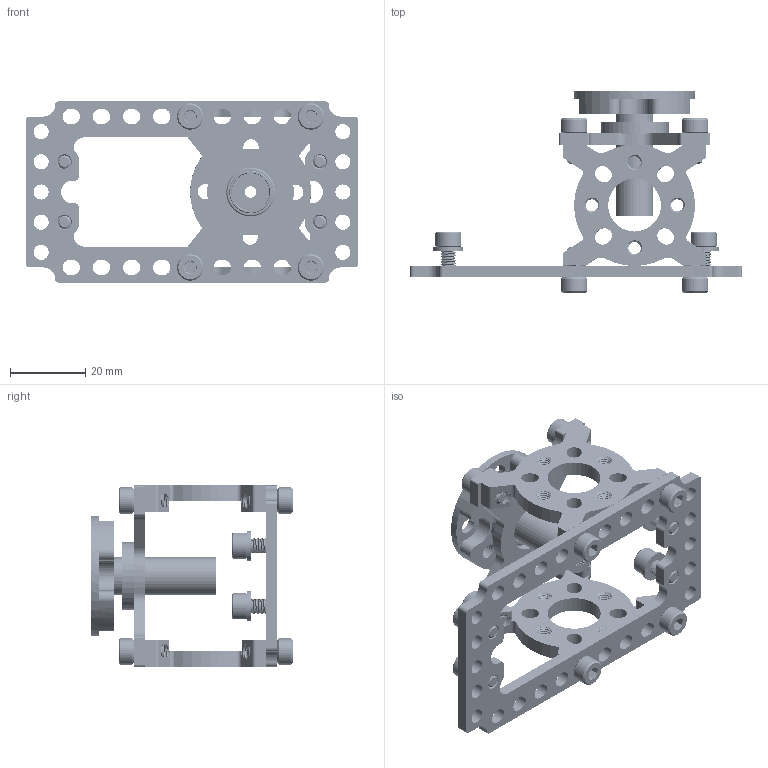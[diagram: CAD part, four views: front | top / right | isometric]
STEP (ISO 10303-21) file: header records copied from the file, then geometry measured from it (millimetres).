
FILE_DESCRIPTION (( 'STEP AP203' ), '1' );
FILE_NAME ('3202-0002-2501.STEP', '2018-08-14T02:34:37', ( '' ), ( '' ), 'SwSTEP 2.0', 'SolidWorks 2016', '' );
FILE_SCHEMA (( 'CONFIG_CONTROL_DESIGN' ));
Length unit declared in the file: millimetre
Products named in the file (9): 1910-0025-1033; 3202-0002-2501; 1610-3240-0010 assembly; 2800-0004-0008_90128A207; 2801-0004-0008_91166A230; 1221-0032-0002; 1600-0415-0010; 1610-3240-0010; 1801-0048-0002
Assembly tree (23 placements, depth 3):
  3202-0002-2501
    1801-0048-0002
    1221-0032-0002  x2
    1610-3240-0010 assembly
      1610-3240-0010
      1600-0415-0010
    1910-0025-1033
    2800-0004-0008_90128A207  x12
    2801-0004-0008_91166A230  x4
Bounding box: 88 x 53.29 x 48 mm (x, y, z)
Volume: 21557.7 mm3; surface area: 25333.1 mm2
Topology: 24 solids, 24 shells, 2433 faces, 6714 edges, 4360 vertices
Faces by surface type: cylinder 1612, plane 373, cone 310, bspline 118, torus 20
Entity records: 107273 total; most frequent: CARTESIAN_POINT 77161, ORIENTED_EDGE 6816, DIRECTION 5392, EDGE_CURVE 3408, VERTEX_POINT 2229, AXIS2_PLACEMENT_3D 2015, VECTOR 1362, LINE 1362
